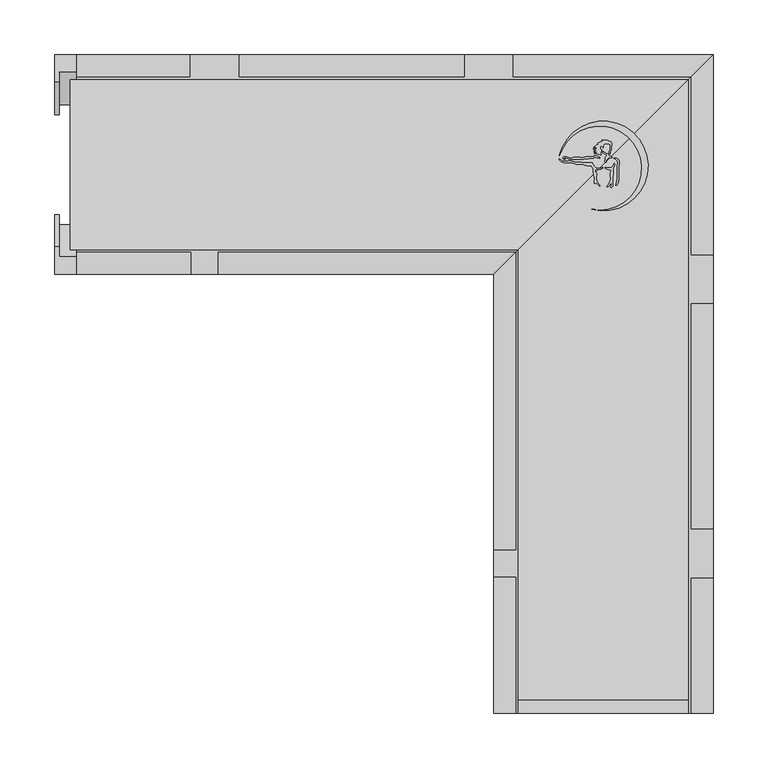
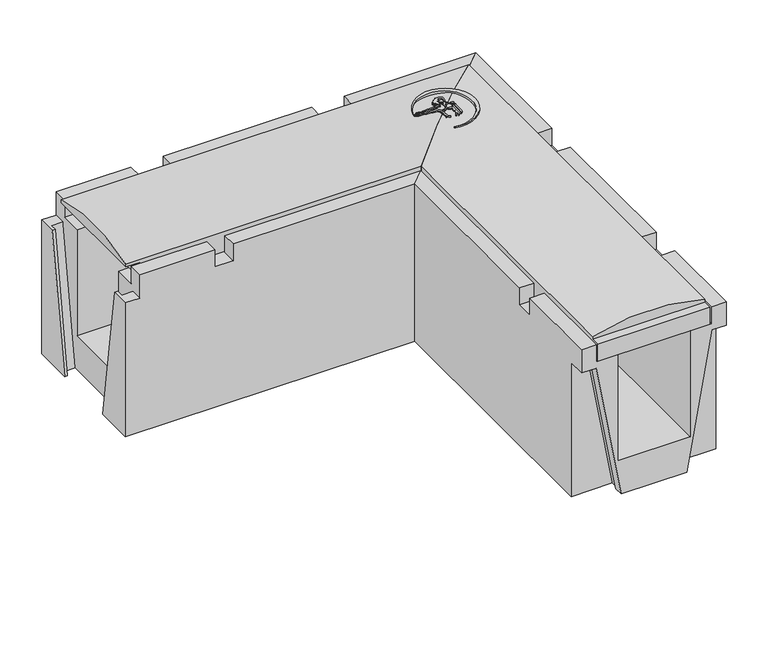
"""IFC4 building model written with IfcOpenShell, lengths in millimetres: cable carrier fitting geometry, Evotray type 1 horizontal bend : Evotray type 1 horizontal bend."""

import ifcopenshell
import ifcopenshell.guid

model = None  # the IFC model being written
_history = None  # IfcOwnerHistory: only IFC2X3 demands one
_inside = {}  # id of a spatial element -> (the spatial element, [elements in it])
_under = {}  # id of a project, library or spatial element -> (it, [spatial elements below it])
_declared = {}  # id of a project -> (the project, [libraries it declares])
_typed = {}  # id of a type object -> (the type object, [elements of that type])
_made_of = {}  # id of a material, layer set ... -> (it, [elements and type objects made of it])


def new_model(schema):
    """Start an empty IFC model of exactly this schema.

    Asked for "IFC4X3", IfcOpenShell would pick the latest addendum, in which some entities
    have other attributes; the version numbers below select the first issue.
    IFC2X3 requires an IfcOwnerHistory on every rooted entity: one is made here for all.
    """
    global model, _history
    if schema == "IFC4X3":
        model = ifcopenshell.file(schema_version=(4, 3, 0, 0))
    else:
        model = ifcopenshell.file(schema=schema)
    _inside.clear()
    _under.clear()
    _declared.clear()
    _typed.clear()
    _made_of.clear()
    _history = None
    if model.schema == "IFC2X3":
        org = make("IfcOrganization", Name="unknown")
        user = make(
            "IfcPersonAndOrganization",
            ThePerson=make("IfcPerson", FamilyName="unknown"),
            TheOrganization=org,
        )
        app = make(
            "IfcApplication",
            ApplicationDeveloper=org,
            Version="unknown",
            ApplicationFullName="unknown",
            ApplicationIdentifier="unknown",
        )
        _history = make(
            "IfcOwnerHistory",
            OwningUser=user,
            OwningApplication=app,
            ChangeAction="ADDED",
            CreationDate=0,
        )
    return model


def make(cls, **values):
    """One entity of the class cls with the attributes given. An attribute that is None is left unset."""
    return model.create_entity(
        cls, **{name: value for name, value in values.items() if value is not None}
    )


def rooted(cls, **values):
    """An entity with a GlobalId (a new one), such as an element, a storey or a relation."""
    return make(cls, GlobalId=ifcopenshell.guid.new(), OwnerHistory=_history, **values)


def si_unit(unit_type, name, prefix=None):
    """IfcSIUnit, for example si_unit("LENGTHUNIT", "METRE", prefix="MILLI")."""
    return make("IfcSIUnit", UnitType=unit_type, Prefix=prefix, Name=name)


def assignment(units):
    """IfcUnitAssignment: the units of a project."""
    return None if units is None else make("IfcUnitAssignment", Units=units)


def point(xyz):
    """IfcCartesianPoint."""
    return None if xyz is None else make("IfcCartesianPoint", Coordinates=xyz)


def direction(xyz):
    """IfcDirection."""
    return None if xyz is None else make("IfcDirection", DirectionRatios=xyz)


def frame(location, z_axis=None, x_axis=None):
    """IfcAxis2Placement3D, a coordinate frame: its origin and axes. An axis left out is left unset."""
    return make(
        "IfcAxis2Placement3D",
        Location=point(location),
        Axis=direction(z_axis),
        RefDirection=direction(x_axis),
    )


def frame_2d(location, x_axis=None):
    """IfcAxis2Placement2D, a coordinate frame in the plane: its origin and x axis."""
    return make(
        "IfcAxis2Placement2D", Location=point(location), RefDirection=direction(x_axis)
    )


def origin():
    """The frame at (0, 0, 0) with its axes left unset."""
    return frame((0.0, 0.0, 0.0))


def place(relative_to, where):
    """IfcLocalPlacement: puts the frame where relative to a parent placement (None: the world)."""
    return make(
        "IfcLocalPlacement", PlacementRelTo=relative_to, RelativePlacement=where
    )


def context(
    kind, dimensions, precision=None, world=None, true_north=None, identifier=None
):
    """IfcGeometricRepresentationContext, for example the 3D "Model" context."""
    return make(
        "IfcGeometricRepresentationContext",
        ContextIdentifier=identifier,
        ContextType=kind,
        CoordinateSpaceDimension=dimensions,
        Precision=precision,
        WorldCoordinateSystem=world,
        TrueNorth=true_north,
    )


def project(units=None, contexts=None):
    """IfcProject with its units and contexts."""
    return rooted(
        "IfcProject",
        Name="project",
        RepresentationContexts=contexts,
        UnitsInContext=assignment(units),
    )


def spatial(cls, under=None, at=None, **own):
    """A site, building, storey or space (cls), placed at a placement, below another one or the project."""
    s = rooted(cls, ObjectPlacement=at, **own)
    if under is not None:
        _under.setdefault(under.id(), (under, []))[1].append(s)
    return s


def polyline(points):
    """IfcPolyline through the points."""
    return make("IfcPolyline", Points=[point(p) for p in points])


def circle_curve(where, radius):
    """IfcCircle in the frame where."""
    return make("IfcCircle", Position=where, Radius=radius)


def ellipse_curve(where, semi_axis1, semi_axis2):
    """IfcEllipse in the frame where."""
    return make(
        "IfcEllipse", Position=where, SemiAxis1=semi_axis1, SemiAxis2=semi_axis2
    )


def trimmed(basis, trim1, trim2, sense, master):
    """IfcTrimmedCurve: the piece of a basis curve between two trims."""
    return make(
        "IfcTrimmedCurve",
        BasisCurve=basis,
        Trim1=trim1,
        Trim2=trim2,
        SenseAgreement=sense,
        MasterRepresentation=master,
    )


def segment(curve, same_sense, transition):
    """IfcCompositeCurveSegment."""
    return make(
        "IfcCompositeCurveSegment",
        Transition=transition,
        SameSense=same_sense,
        ParentCurve=curve,
    )


def composite_curve(segments, self_intersect=None):
    """IfcCompositeCurve: segments joined end to end."""
    return make("IfcCompositeCurve", Segments=segments, SelfIntersect=self_intersect)


def outline(outer, holes=None, kind="AREA"):
    """IfcArbitraryClosedProfileDef: a profile drawn as a closed curve; with holes, ...WithVoids."""
    if holes is None:
        return make("IfcArbitraryClosedProfileDef", ProfileType=kind, OuterCurve=outer)
    return make(
        "IfcArbitraryProfileDefWithVoids",
        ProfileType=kind,
        OuterCurve=outer,
        InnerCurves=holes,
    )


def extrude(swept, where, along, depth):
    """IfcExtrudedAreaSolid: the profile swept, set in the frame where, extruded along a direction by depth."""
    return make(
        "IfcExtrudedAreaSolid",
        SweptArea=swept,
        Position=where,
        ExtrudedDirection=direction(along),
        Depth=depth,
    )


def faces_of(points, faces, orient=None, outer=None):
    """IfcFace entities. A face is a list of loops; a loop is a list of indices into points, from 0.

    orient and outer hold one flag for each loop. By default every Orientation is true, the
    first loop of a face is its IfcFaceOuterBound and the others are IfcFaceBound.
    """
    made = []
    for i, loops in enumerate(faces):
        bounds = []
        for j, loop in enumerate(loops):
            is_outer = j == 0 if outer is None else outer[i][j]
            bounds.append(
                make(
                    "IfcFaceOuterBound" if is_outer else "IfcFaceBound",
                    Bound=make("IfcPolyLoop", Polygon=[points[k] for k in loop]),
                    Orientation=True if orient is None else orient[i][j],
                )
            )
        made.append(make("IfcFace", Bounds=bounds))
    return made


def faceted_brep(points, faces, orient=None, outer=None, voids=None):
    """IfcFacetedBrep: a solid bounded by flat faces; with voids (closed shells), ...WithVoids."""
    shared = [point(p) for p in points]
    hull = make("IfcClosedShell", CfsFaces=faces_of(shared, faces, orient, outer))
    if voids is None:
        return make("IfcFacetedBrep", Outer=hull)
    return make(
        "IfcFacetedBrepWithVoids",
        Outer=hull,
        Voids=[
            make(cls, CfsFaces=faces_of(shared, fs, o, b)) for cls, fs, o, b in voids
        ],
    )


def shape(context_of_items, identifier, shape_type, items):
    """IfcShapeRepresentation: the items that make up one representation, for example the "Body"."""
    return make(
        "IfcShapeRepresentation",
        ContextOfItems=context_of_items,
        RepresentationIdentifier=identifier,
        RepresentationType=shape_type,
        Items=items,
    )


def source(mapping_origin, context_of_items, identifier, shape_type, items):
    """IfcRepresentationMap: a shape defined once, which mapped items show again and again."""
    return make(
        "IfcRepresentationMap",
        MappingOrigin=mapping_origin,
        MappedRepresentation=shape(context_of_items, identifier, shape_type, items),
    )


def transform(
    local_origin,
    x_axis=None,
    y_axis=None,
    z_axis=None,
    scale=None,
    scale2=None,
    scale3=None,
    uniform=True,
):
    """IfcCartesianTransformationOperator3D, or its non-uniform kind. x_axis, y_axis, z_axis: its Axis1, 2, 3."""
    if uniform:
        return make(
            "IfcCartesianTransformationOperator3D",
            Axis1=direction(x_axis),
            Axis2=direction(y_axis),
            LocalOrigin=point(local_origin),
            Scale=scale,
            Axis3=direction(z_axis),
        )
    return make(
        "IfcCartesianTransformationOperator3DnonUniform",
        Axis1=direction(x_axis),
        Axis2=direction(y_axis),
        LocalOrigin=point(local_origin),
        Scale=scale,
        Axis3=direction(z_axis),
        Scale2=scale2,
        Scale3=scale3,
    )


def mapped(mapping_source, mapping_target):
    """IfcMappedItem: shows the shape of a source again, moved by a transform."""
    return make(
        "IfcMappedItem", MappingSource=mapping_source, MappingTarget=mapping_target
    )


def made_of(thing, what):
    """Note that an element or type object is made of a material, layer set ...; save() writes the relation."""
    if what is not None:
        _made_of.setdefault(what.id(), (what, []))[1].append(thing)
    return thing


def element(
    cls,
    number,
    at=None,
    inside=None,
    cuts=None,
    type_object=None,
    material=None,
    context=None,
    identifier="Body",
    shape_type=None,
    held_by="IfcProductDefinitionShape",
    body=None,
    shapes=None,
    **own,
):
    """One element of the class cls, such as IfcWall. Its Tag is "e" and its number.

    at: its placement. inside: the storey or other place that contains it. cuts: it is an
    opening in that element (IfcRelVoidsElement). A single representation is given by context,
    identifier, shape_type and body (its items); several are given by shapes. held_by: the class
    of the entity that holds the representations. save() writes the other relations.
    """
    e = rooted(cls, Tag="e%d" % number, ObjectPlacement=at, **own)
    if body is not None:
        shapes = [shape(context, identifier, shape_type, body)]
    if shapes is not None:
        e.Representation = make(held_by, Representations=shapes)
    if inside is not None:
        _inside.setdefault(inside.id(), (inside, []))[1].append(e)
    if cuts is not None:
        rooted(
            "IfcRelVoidsElement", RelatingBuildingElement=cuts, RelatedOpeningElement=e
        )
    if type_object is not None:
        _typed.setdefault(type_object.id(), (type_object, []))[1].append(e)
    return made_of(e, material)


def aggregate(whole, parts):
    """IfcRelAggregates: a whole, such as a stair, and the parts it consists of."""
    return rooted("IfcRelAggregates", RelatingObject=whole, RelatedObjects=parts)


def save(model, path):
    """Write the relations noted so far, then the file.

    IfcRelAggregates (storeys below a building ...), IfcRelContainedInSpatialStructure (elements
    in a storey), IfcRelDefinesByType, IfcRelAssociatesMaterial and IfcRelDeclares: one each for
    every whole, place, type object, material and project.
    """
    for whole, parts in _under.values():
        aggregate(whole, parts)
    for where, things in _inside.values():
        rooted(
            "IfcRelContainedInSpatialStructure",
            RelatedElements=things,
            RelatingStructure=where,
        )
    for kind, things in _typed.values():
        rooted("IfcRelDefinesByType", RelatedObjects=things, RelatingType=kind)
    for what, things in _made_of.values():
        rooted("IfcRelAssociatesMaterial", RelatedObjects=things, RelatingMaterial=what)
    for by, libraries in _declared.values():
        rooted("IfcRelDeclares", RelatingContext=by, RelatedDefinitions=libraries)
    model.write(path)


def plane_surface(at):
    """IfcPlane: the flat surface through the origin of the frame at, square to its z axis."""
    return make("IfcPlane", Position=at)


def cylinder_surface(at, radius):
    """IfcCylindricalSurface: all points at the distance radius from the z axis of the frame at."""
    return make("IfcCylindricalSurface", Position=at, Radius=radius)


def advanced_brep(points, edges, surfaces, faces):
    """IfcAdvancedBrep: a solid bounded by faces that lie on surfaces and meet in shared edges.

    An edge is (start, end): straight between two places in points (the first is 0);
    or (start, end, curve); or (start, end, curve, False) where it runs against its curve.
    A face is (place in surfaces, loops), or (place, loops, False) where it looks against
    its surface's normal. A loop lists edges by number (the first is 1), with a minus sign
    where the edge is run from its end to its start. The first loop is the outer one.
    """
    corners = [point(p) for p in points]
    vertices = [make("IfcVertexPoint", VertexGeometry=c) for c in corners]
    made = []
    for start, end, *more in edges:
        made.append(
            make(
                "IfcEdgeCurve",
                EdgeStart=vertices[start],
                EdgeEnd=vertices[end],
                EdgeGeometry=more[0] if more else make("IfcPolyline", Points=[corners[start], corners[end]]),
                SameSense=more[1] if len(more) > 1 else True,
            )
        )
    hull = []
    for where, loops, *sense in faces:
        bounds = []
        for j, loop in enumerate(loops):
            ring = [make("IfcOrientedEdge", EdgeElement=made[abs(k) - 1], Orientation=k > 0) for k in loop]
            bounds.append(
                make(
                    "IfcFaceOuterBound" if j == 0 else "IfcFaceBound",
                    Bound=make("IfcEdgeLoop", EdgeList=ring),
                    Orientation=True,
                )
            )
        hull.append(make("IfcAdvancedFace", Bounds=bounds, FaceSurface=surfaces[where], SameSense=sense[0] if sense else True))
    return make("IfcAdvancedBrep", Outer=make("IfcClosedShell", CfsFaces=hull))


def cable_carrier_fitting_a2e915ad(model_context):
    return source(origin(), model_context, "Body", "SolidModel", [
        extrude(outline(composite_curve([segment(polyline([(6.8530353, 7.5339815), (8.2787263, 6.7108584), (7.569795, 6.3015567), (5.0048652, 6.3015567), (2.5453719, 3.8420634), (2.5453719, 2.2583954), (1.4878579, 1.9750354), (1.1564908, 3.2117144), (1.4787122, 4.414261), (1.4787122, 6.6410761), (2.9452528, 8.1076167), (2.5453719, 8.8002309), (1.4787122, 9.4160672), (0.6204403, 9.9115907), (-0.3726833, 10.9047143), (-0.3726833, 12.1547711), (0.4151109, 11.6999379), (1.4787122, 10.6363367), (2.5453719, 10.0205004), (4.8581365, 10.0205004), (5.4900352, 10.6523991), (5.4900352, 12.2608037), (5.8958922, 12.9637687), (6.1354622, 13.8578561), (6.1354622, 17.953291), (5.4900352, 18.598718), (1.4787122, 18.9496633), (0.730548, 18.5177106), (0.2986995, 17.769727), (0.0763061, 16.9397435), (-0.1964103, 15.393092), (-0.752432, 15.9491137), (-1.3180879, 16.5147695), (-2.2786228, 16.5147695), (-2.7530622, 15.6930164), (-2.7530622, 14.868111), (-2.351015, 14.1717449), (-1.6233204, 13.4440503), (-2.0199597, 11.9637721), (-2.3574597, 10.7042051), (-2.0546522, 8.9868987), (-2.8554453, 8.8456973), (-4.5858906, 9.3093687), (-5.8325999, 9.8907188), (-6.5858571, 10.2419684), (-8.1853056, 9.9599424), (-7.7177472, 10.7697774), (-6.0609262, 11.3728109)]), True, "CONTINUOUS"), segment(trimmed(circle_curve(frame_2d((-6.6270538, 11.1008716)), 0.6280537), [point((-6.0609262, 11.3728109))], [point((-6.7826359, 11.7093497))], True, "CARTESIAN"), True, "CONTINUOUS"), segment(polyline([(-6.7826359, 11.7093497), (-8.729651, 11.7093497), (-8.1714729, 12.2675278), (-7.3206931, 12.5771863), (-6.5022536, 12.875074)]), True, "CONTINUOUS"), segment(trimmed(circle_curve(frame_2d((-7.2405785, 12.875074)), 0.7383249), [point((-6.5022536, 12.875074))], [point((-7.2405785, 13.6133989))], True, "CARTESIAN"), True, "CONTINUOUS"), segment(polyline([(-7.2405785, 13.6133989), (-8.9483262, 13.6133989), (-9.3398478, 14.2915342), (-7.5212557, 14.612201), (-6.2249177, 15.0840295), (-6.8456704, 15.7047821), (-8.8088899, 15.7047821), (-8.2563074, 16.2573646), (-7.2264747, 16.8519388), (-6.5517503, 17.5266631), (-5.828933, 17.9439819), (-4.853921, 18.5069053)]), True, "CONTINUOUS"), segment(trimmed(circle_curve(frame_2d((-5.0649064, 18.8723428)), 0.4219708), [point((-4.853921, 18.5069053))], [point((-5.2758918, 19.2377802))], True, "CARTESIAN"), True, "CONTINUOUS"), segment(polyline([(-5.2758918, 19.2377802), (-4.6584952, 19.8551768), (-3.3558252, 20.3293099), (-2.3607686, 20.9038061), (-1.229232, 21.1033266), (-1.5830578, 22.0754549), (3.4169422, 22.0754549), (4.431116, 21.6025379), (5.552971, 21.3019378), (6.5674171, 20.716247), (7.6760935, 19.6075706), (7.6760935, 17.0415553), (7.1871764, 16.1947259), (7.1871764, 13.46269), (6.6981414, 12.4139512), (6.2913396, 11.7093497), (6.2913396, 9.8605854), (5.4900352, 9.3979521), (4.6567567, 9.2510226)]), True, "CONTINUOUS"), segment(trimmed(circle_curve(frame_2d((5.7097082, 8.9688851)), 1.0900956), [point((4.6567567, 9.2510226))], [point((5.4275707, 7.9159336))], True, "CARTESIAN"), True, "CONTINUOUS"), segment(polyline([(5.4275707, 7.9159336), (6.8530353, 7.5339815)]), True, "CONTINUOUS")], self_intersect=False)), frame((0.0, 0.0, 223.75), z_axis=(0.0, 0.0, 1.0), x_axis=(1.0, 0.0, 0.0)), (0.0, 0.0, 1.0), 22.5),
        extrude(outline(polyline([(11.4097445, 4.6789788), (9.4871005, 5.7890178), (10.6763406, 6.1076737), (12.051196, 5.6072673), (14.1773452, 4.3797345), (14.5889946, 2.8434379), (14.5889946, 0.0702487), (14.1706137, -2.3025073), (13.8444766, -11.6418533), (13.8444766, -14.4967502), (13.2848286, -17.6706715), (12.1258045, -18.8296956), (11.2283159, -18.8296956), (11.9031901, -16.975494), (12.2121457, -15.2233198), (12.726603, -12.3056877), (12.726603, -1.066223), (13.1682376, 1.4384114), (12.6257607, 3.4629626), (11.4097445, 4.6789788)])), frame((0.0, 0.0, 223.75), z_axis=(0.0, 0.0, 1.0), x_axis=(1.0, 0.0, 0.0)), (0.0, 0.0, 1.0), 22.5),
        extrude(outline(composite_curve([segment(polyline([(3.9814956, -2.929042), (5.963697, -2.929042), (7.4319613, -2.6701473), (8.7372434, -1.3648653), (9.9173522, 1.1658863), (10.3983042, -0.1555184), (9.7755965, -1.4909195), (9.104989, -2.929042), (9.104989, -8.8872378), (8.6766099, -11.3166965), (8.6766099, -19.7978385), (7.2279512, -21.2464971), (6.655214, -20.6737599), (7.333934, -18.9313898), (7.5920793, -17.4673747)]), True, "CONTINUOUS"), segment(trimmed(circle_curve(frame_2d((7.1774313, -17.4673747)), 0.414648), [point((7.5920793, -17.4673747))], [point((6.7627833, -17.4673747))], True, "CARTESIAN"), True, "CONTINUOUS"), segment(polyline([(6.7627833, -17.4673747), (5.9970945, -18.2330635), (4.730248, -19.7428323), (4.074739, -20.3983414), (3.2824177, -20.0288759), (5.4466376, -16.820288), (5.7525473, -15.0853881), (6.5946052, -13.2795892), (6.8518127, -11.8208929), (6.0633039, -10.4551557), (6.0633039, -7.6886085), (7.3864524, -5.8190518)]), True, "CONTINUOUS"), segment(trimmed(circle_curve(frame_2d((7.0493474, -5.5804712)), 0.4129897), [point((7.3864524, -5.8190518))], [point((6.8107668, -5.2433662))], True, "CARTESIAN"), True, "CONTINUOUS"), segment(polyline([(6.8107668, -5.2433662), (4.8069518, -4.8900395), (3.3630553, -4.2167395), (1.5430546, -3.3680593), (1.5430546, -2.499079), (3.9814956, -2.929042)]), True, "CONTINUOUS")], self_intersect=False)), frame((0.0, 0.0, 223.75), z_axis=(0.0, 0.0, 1.0), x_axis=(1.0, 0.0, 0.0)), (0.0, 0.0, 1.0), 22.5),
        extrude(outline(composite_curve([segment(polyline([(-38.4301003, 3.8801527), (-36.6944265, 3.0707947), (-32.5079526, 3.0707947), (-31.4372315, 3.3576935), (-30.1106939, 3.3576935), (-28.389585, 3.0707947), (-26.383263, 2.5332023), (-25.2300749, 2.2242065), (-19.5381682, 2.2242065), (-16.9216723, 1.7880518), (-15.5941096, 1.4323324), (-9.9798674, 1.4323324)]), True, "CONTINUOUS"), segment(trimmed(circle_curve(frame_2d((-1.1263012, 4.337939)), 9.3181642), [point((-9.9798674, 1.4323324))], [point((-6.6255996, -3.184421))], True, "CARTESIAN"), True, "CONTINUOUS"), segment(polyline([(-6.6255996, -3.184421), (-3.5738148, -3.184421), (-1.5392362, -3.0064185), (-0.4002323, -2.4752922), (-0.6577522, -3.4363696), (-1.6018465, -3.9814427), (-2.5605334, -4.3303762), (-5.7952384, -4.2174178), (-6.983933, -4.6500673), (-7.3929274, -5.5271586), (-7.3178468, -6.3853337), (-6.8389626, -7.2147854), (-6.1183571, -7.9353909), (-6.1183571, -9.6916034), (-6.4836574, -10.6952577), (-6.3393908, -12.3442325), (-5.8342984, -14.2292627), (-5.6861793, -15.9222719), (-3.3148443, -18.6501808), (-3.5235212, -19.8336466), (-6.1183571, -17.2388107), (-7.0811887, -17.4968007), (-8.4843649, -17.2493828), (-8.2088045, -16.4922869), (-8.2088045, -14.2182314), (-8.0332007, -13.2223327), (-8.2088045, -11.2151718), (-8.584467, -10.1830477), (-8.584467, -8.3578648), (-9.0308027, -7.4006948), (-9.0308027, -5.0229453), (-9.2792429, -4.0957537), (-9.7312132, -3.3129181), (-10.179925, -2.5357266), (-10.7943674, -1.9212842), (-11.2282187, -0.9908871), (-14.8291569, -0.8651396), (-17.1733089, -0.4743831), (-19.2059022, 0.0702487), (-22.5475218, 0.4214671), (-24.6271348, 0.4214671), (-25.9693694, 0.7811177), (-27.4929644, 1.1893638), (-28.8362177, 1.8157331), (-29.8306065, 1.8157331), (-32.4820468, 1.8157331), (-33.594291, 1.5177082), (-35.4575729, 1.713547), (-36.9466477, 1.9617671), (-38.6199553, 2.7420433), (-39.5958817, 3.7179696), (-40.2349647, 4.3570527), (-40.2349647, 5.1439324), (-38.4301003, 3.8801527)]), True, "CONTINUOUS")], self_intersect=False)), frame((0.0, 0.0, 223.75), z_axis=(0.0, 0.0, 1.0), x_axis=(1.0, 0.0, 0.0)), (0.0, 0.0, 1.0), 22.5),
        extrude(outline(composite_curve([segment(polyline([(-35.9278677, 5.4241248), (-34.9045534, 4.833314), (-36.6322138, 5.3529849), (-36.9623604, 6.2705486), (-36.1240359, 7.108873), (-33.2512174, 7.108873), (-32.2667804, 6.7111347), (-31.1762916, 6.2705486), (-30.3780981, 5.8097113), (-29.1178679, 5.8097113), (-28.2968429, 6.1051225), (-27.4115906, 6.6162232), (-20.9978856, 6.6162232), (-20.1423111, 6.2705486), (-19.071909, 6.2705486), (-18.1111888, 6.6162232), (-16.9320322, 6.6162232), (-16.2136931, 7.0309564), (-10.8010379, 7.0309564), (-10.0407572, 7.3045113), (-8.7985992, 7.3045113), (-8.2228307, 7.8802798), (-6.2652672, 7.8802798), (-4.9772661, 7.3598936), (-3.9653497, 6.7756634), (-3.1609086, 6.4506481)]), True, "CONTINUOUS"), segment(trimmed(circle_curve(frame_2d((-3.568241, 6.2860752)), 0.4393221), [point((-3.1609086, 6.4506481))], [point((-3.732814, 5.8787428))], False, "CARTESIAN"), True, "CONTINUOUS"), segment(polyline([(-3.732814, 5.8787428), (-4.7485426, 6.2891238), (-6.0602004, 6.2891238), (-7.3306304, 6.5131349), (-8.1426548, 6.2209622), (-9.2856287, 5.8097113), (-12.6298267, 5.8097113), (-13.4209, 5.3529849), (-16.9882203, 5.3529849), (-17.8710826, 4.8432641), (-27.8710826, 4.8432641), (-30.4817467, 4.6148606), (-34.1702744, 6.1051225), (-36.3210419, 6.1051225), (-35.9278677, 5.4241248)]), True, "CONTINUOUS")], self_intersect=False)), frame((0.0, 0.0, 223.75), z_axis=(0.0, 0.0, 1.0), x_axis=(1.0, 0.0, 0.0)), (0.0, 0.0, 1.0), 22.5),
        extrude(outline(composite_curve([segment(trimmed(circle_curve(frame_2d((-3.3476077, -3.2457098)), 38.3616107), [point((-10.7554444, -40.8852785))], [point((-40.059143, 7.8842657))], True, "CARTESIAN"), True, "CONTINUOUS"), segment(trimmed(circle_curve(frame_2d((-0.2182069, -1.3653761)), 40.900563), [point((-40.059143, 7.8842657))], [point((-10.7554444, -40.8852785))], False, "CARTESIAN"), True, "CONTINUOUS")], self_intersect=False)), frame((0.0, 0.0, 223.75), z_axis=(0.0, 0.0, 1.0), x_axis=(1.0, 0.0, 0.0)), (0.0, 0.0, 1.0), 22.5),
        advanced_brep(
        [(-77.5, -500.0, 205.0), (-77.5, -77.5, 205.0), (77.5, 77.5, 205.0), (77.5, -500.0, 205.0), (77.5, -500.0, 230.0), (-77.5, -500.0, 230.0), (77.5, 77.5, 234.0), (77.5, -488.0, 234.0), (77.5, -488.0, 230.0), (-77.5, -77.5, 234.0), (-77.5, -488.0, 230.0), (-77.5, -488.0, 234.0)],
        [
            (0, 1),
            (1, 2),
            (2, 3),
            (3, 0),
            (3, 4),
            (4, 5),
            (5, 0),
            (2, 6),
            (6, 7),
            (7, 8),
            (8, 4),
            (1, 9),
            (9, 6, ellipse_curve(frame((0.0, 0.0, -12.5201058), z_axis=(-0.7071067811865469, 0.7071067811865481, 0.0), x_axis=(-0.707106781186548, -0.7071067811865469, 0.0)), 365.4542723, 258.4151942)),
            (5, 10),
            (10, 11),
            (11, 9),
            (8, 10),
            (7, 11, circle_curve(frame((0.0, -488.0, -12.5201058), z_axis=(0.0, -1.0, 0.0), x_axis=(-1.0, 0.0, 0.0)), 258.4151942)),
        ],
        [
            plane_surface(frame((80.0, -500.0, 205.0), z_axis=(0.0, 0.0, -1.0), x_axis=(-1.0, 0.0, 0.0))),
            plane_surface(frame((-77.5, -500.0, 246.0), z_axis=(0.0, -1.0, 0.0), x_axis=(0.0, 0.0, -1.0))),
            plane_surface(frame((77.5, -500.0, 246.0), z_axis=(1.0, 0.0, 0.0), x_axis=(0.0, 0.0, -1.0))),
            plane_surface(frame((77.5, 77.5, 246.0), z_axis=(-0.7071067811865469, 0.7071067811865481, 0.0), x_axis=(0.0, 0.0, -1.0))),
            plane_surface(frame((-77.5, -77.5, 246.0), z_axis=(-1.0, 0.0, 0.0), x_axis=(0.0, 0.0, -1.0))),
            plane_surface(frame((-77.6, -488.0, 230.0), z_axis=(0.0, 0.0, 1.0), x_axis=(1.0, 0.0, 0.0))),
            plane_surface(frame((77.5, -488.0, 246.0), z_axis=(0.0, -1.0, 0.0), x_axis=(0.0, 0.0, -1.0))),
            cylinder_surface(frame((0.0, 0.0, -12.5201058), z_axis=(0.0, -1.0, 0.0), x_axis=(-1.0, 0.0, 0.0)), 258.4151942),
        ],
        [
            (0, [[1, 2, 3, 4]]),
            (1, [[-4, 5, 6, 7]]),
            (2, [[-3, 8, 9, 10, 11, -5]]),
            (3, [[-2, 12, 13, -8]]),
            (4, [[-1, -7, 14, 15, 16, -12]]),
            (5, [[17, -14, -6, -11]]),
            (6, [[-17, -10, 18, -15]]),
            (7, [[-9, -13, -16, -18]]),
        ],
    ),
        advanced_brep(
        [(77.5, 77.5, 205.0), (-77.5, -77.5, 205.0), (-466.0, -77.5, 205.0), (-466.0, 77.5, 205.0), (-77.5, -77.5, 230.0), (-77.5, -77.5, 234.0), (-486.0, -77.5, 234.0), (-486.0, -77.5, 230.0), (-466.0, -77.5, 230.0), (77.5, 77.5, 230.0), (77.5, 77.5, 234.0), (-466.0, 77.5, 230.0), (-486.0, 77.5, 230.0), (-486.0, 77.5, 234.0)],
        [
            (0, 1),
            (1, 2),
            (2, 3),
            (3, 0),
            (1, 4),
            (4, 5),
            (5, 6),
            (6, 7),
            (7, 8),
            (8, 2),
            (0, 9),
            (9, 10),
            (10, 5, ellipse_curve(frame((0.0, 0.0, -12.5201058), z_axis=(0.7071067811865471, -0.7071067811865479, 0.0), x_axis=(0.7071067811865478, 0.7071067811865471, 0.0)), 365.4542723, 258.4151942)),
            (3, 11),
            (11, 12),
            (12, 13),
            (13, 10),
            (12, 7),
            (6, 13, circle_curve(frame((-486.0, 0.0, -12.5201058), z_axis=(-1.0, 0.0, 0.0), x_axis=(0.0, -1.0, 0.0)), 258.4151942)),
            (11, 8),
        ],
        [
            plane_surface(frame((-77.5, -77.5, 205.0), z_axis=(0.0, 0.0, -1.0), x_axis=(-1.0, 0.0, 0.0))),
            plane_surface(frame((-486.0, -77.5, 246.0), z_axis=(0.0, -1.0, 0.0), x_axis=(0.0, 0.0, -1.0))),
            plane_surface(frame((-77.5, -77.5, 246.0), z_axis=(0.7071067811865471, -0.7071067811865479, 0.0), x_axis=(0.0, 0.0, -1.0))),
            plane_surface(frame((77.5, 77.5, 246.0), z_axis=(0.0, 1.0, 0.0), x_axis=(0.0, 0.0, -1.0))),
            plane_surface(frame((-486.0, 77.5, 246.0), z_axis=(-1.0, 0.0, 0.0), x_axis=(0.0, 0.0, -1.0))),
            plane_surface(frame((-486.0, 77.5, 230.0), z_axis=(0.0, 0.0, -1.0), x_axis=(-1.0, 0.0, 0.0))),
            plane_surface(frame((-466.0, -77.5, 230.0), z_axis=(-1.0, 0.0, 0.0), x_axis=(0.0, 0.0, -1.0))),
            cylinder_surface(frame((-486.0, 0.0, -12.5201058), z_axis=(1.0, 0.0, 0.0), x_axis=(0.0, -1.0, 0.0)), 258.4151942),
        ],
        [
            (0, [[1, 2, 3, 4]]),
            (1, [[5, 6, 7, 8, 9, 10, -2]]),
            (2, [[-1, 11, 12, 13, -6, -5]]),
            (3, [[-11, -4, 14, 15, 16, 17, -12]]),
            (4, [[18, -8, 19, -16]]),
            (5, [[20, -9, -18, -15]]),
            (6, [[-20, -14, -3, -10]]),
            (7, [[-7, -13, -17, -19]]),
        ],
    ),
        faceted_brep([(-80.0, -80.0, 230.0), (-100.0, -100.0, 230.0), (-100.0, -351.0, 230.0), (-80.0, -351.0, 230.0), (100.0, 100.0, 230.0), (80.0, 80.0, 230.0), (80.0, -82.0, 230.0), (100.0, -82.0, 230.0), (80.0, -500.0, 230.0), (100.0, -500.0, 230.0), (100.0, -377.0, 230.0), (80.0, -377.0, 230.0), (-100.0, -500.0, 230.0), (-80.0, -500.0, 230.0), (-80.0, -376.0, 230.0), (-100.0, -376.0, 230.0), (100.0, -332.0, 230.0), (100.0, -127.0, 230.0), (80.0, -127.0, 230.0), (80.0, -332.0, 230.0), (-100.0, -100.0, 0.0), (100.0, 100.0, 0.0), (100.0, -475.0, 0.0), (43.0, -475.0, 0.0), (43.0, -487.0, 0.0), (45.4, -487.0, 0.0), (45.4, -500.0, 0.0), (-45.4, -500.0, 0.0), (-45.4, -487.0, 0.0), (-43.0, -487.0, 0.0), (-43.0, -475.0, 0.0), (-100.0, -475.0, 0.0), (100.0, -82.0, 205.0), (100.0, -127.0, 205.0), (100.0, -332.0, 205.0), (100.0, -377.0, 205.0), (100.0, -500.0, 196.0), (100.0, -475.0, 196.0), (-80.0, -80.0, 205.0), (-50.0, -50.0, 205.0), (-50.0, -50.0, 50.0), (50.0, 50.0, 50.0), (50.0, 50.0, 205.0), (80.0, 80.0, 205.0), (-100.0, -475.0, 196.0), (-100.0, -500.0, 196.0), (-100.0, -376.0, 205.0), (-100.0, -351.0, 205.0), (-80.0, -500.0, 196.0), (80.0, -500.0, 196.0), (80.0, -500.0, 205.0), (50.0, -500.0, 205.0), (50.0, -500.0, 50.0), (-50.0, -500.0, 50.0), (-50.0, -500.0, 205.0), (-80.0, -500.0, 205.0), (-80.0, -487.0, 196.0), (-77.6, -475.0, 196.0), (-77.6, -487.0, 196.0), (80.0, -487.0, 196.0), (77.6, -487.0, 196.0), (77.6, -475.0, 196.0), (-80.0, -351.0, 205.0), (-80.0, -376.0, 205.0), (80.0, -377.0, 205.0), (80.0, -332.0, 205.0), (80.0, -127.0, 205.0), (80.0, -82.0, 205.0)], [[[0, 1, 2, 3]], [[4, 5, 6, 7]], [[8, 9, 10, 11]], [[12, 13, 14, 15]], [[16, 17, 18, 19]], [[20, 21, 22, 23, 24, 25, 26, 27, 28, 29, 30, 31]], [[21, 4, 7, 32, 33, 17, 16, 34, 35, 10, 9, 36, 37, 22]], [[21, 20, 1, 0, 38, 39, 40, 41, 42, 43, 5, 4]], [[1, 20, 31, 44, 45, 12, 15, 46, 47, 2]], [[12, 45, 48, 27, 26, 49, 36, 9, 8, 50, 51, 52, 53, 54, 55, 13]], [[56, 48, 45, 44, 57, 58]], [[48, 56, 28, 27]], [[49, 59, 60, 61, 37, 36]], [[59, 49, 26, 25]], [[58, 29, 28, 56]], [[58, 57, 30, 29]], [[57, 44, 31, 30]], [[24, 60, 59, 25]], [[61, 60, 24, 23]], [[37, 61, 23, 22]], [[39, 38, 62, 47, 46, 63, 55, 54]], [[43, 42, 51, 50, 64, 35, 34, 65, 66, 33, 32, 67]], [[19, 18, 66, 65]], [[5, 43, 67, 6]], [[50, 8, 11, 64]], [[38, 0, 3, 62]], [[13, 55, 63, 14]], [[52, 41, 40, 53]], [[41, 52, 51, 42]], [[53, 40, 39, 54]], [[47, 62, 3, 2]], [[63, 46, 15, 14]], [[67, 32, 7, 6]], [[33, 66, 18, 17]], [[65, 34, 16, 19]], [[35, 64, 11, 10]]]),
        faceted_brep([(-100.0, -100.0, 230.0), (-80.0, -80.0, 230.0), (-351.0, -80.0, 230.0), (-351.0, -100.0, 230.0), (80.0, 80.0, 230.0), (100.0, 100.0, 230.0), (-82.0, 100.0, 230.0), (-82.0, 80.0, 230.0), (-127.0, 100.0, 230.0), (-332.0, 100.0, 230.0), (-332.0, 80.0, 230.0), (-127.0, 80.0, 230.0), (-376.0, -100.0, 230.0), (-376.0, -80.0, 230.0), (-480.0, -80.0, 230.0), (-480.0, -100.0, 230.0), (-377.0, 80.0, 230.0), (-377.0, 100.0, 230.0), (-480.0, 100.0, 230.0), (-480.0, 80.0, 230.0), (-500.0, 100.0, 0.0), (100.0, 100.0, 0.0), (-100.0, -100.0, 0.0), (-500.0, -100.0, 0.0), (-500.0, -45.5, 0.0), (-496.0, -45.5, 0.0), (-496.0, -54.6, 0.0), (-480.0, -54.6, 0.0), (-480.0, 54.6, 0.0), (-496.0, 54.6, 0.0), (-496.0, 45.4, 0.0), (-500.0, 45.4, 0.0), (-500.0, 100.0, 196.0), (-500.0, 74.8852174, 196.0), (-500.0, -100.0, 196.0), (-500.0, -74.9, 196.0), (-351.0, -100.0, 205.0), (-376.0, -100.0, 205.0), (-480.0, -100.0, 196.0), (80.0, 80.0, 205.0), (50.0, 50.0, 205.0), (50.0, 50.0, 50.0), (-50.0, -50.0, 50.0), (-50.0, -50.0, 205.0), (-80.0, -80.0, 205.0), (-480.0, 100.0, 196.0), (-377.0, 100.0, 205.0), (-332.0, 100.0, 205.0), (-127.0, 100.0, 205.0), (-82.0, 100.0, 205.0), (-82.0, 80.0, 205.0), (-127.0, 80.0, 205.0), (-332.0, 80.0, 205.0), (-377.0, 80.0, 205.0), (-480.0, 80.0, 205.0), (-480.0, 77.5, 205.0), (-480.0, 50.0, 205.0), (-466.0, 50.0, 205.0), (-466.0, -50.0, 205.0), (-480.0, -50.0, 205.0), (-480.0, -77.5, 205.0), (-480.0, -80.0, 205.0), (-376.0, -80.0, 205.0), (-351.0, -80.0, 205.0), (-480.0, 50.0, 50.0), (-480.0, -50.0, 50.0), (-480.0, -84.0852174, 196.0), (-496.0, -84.0852174, 196.0), (-496.0, -74.9, 196.0), (-496.0, 74.8852174, 196.0), (-496.0, 84.0, 196.0), (-480.0, 84.0, 196.0)], [[[0, 1, 2, 3]], [[4, 5, 6, 7]], [[8, 9, 10, 11]], [[12, 13, 14, 15]], [[16, 17, 18, 19]], [[20, 21, 22, 23, 24, 25, 26, 27, 28, 29, 30, 31]], [[32, 20, 31, 33]], [[23, 34, 35, 24]], [[23, 22, 0, 3, 36, 37, 12, 15, 38, 34]], [[22, 21, 5, 4, 39, 40, 41, 42, 43, 44, 1, 0]], [[21, 20, 32, 45, 18, 17, 46, 47, 9, 8, 48, 49, 6, 5]], [[40, 39, 50, 49, 48, 51, 52, 47, 46, 53, 54, 55, 56, 57]], [[44, 43, 58, 59, 60, 61, 62, 37, 36, 63]], [[1, 44, 63, 2]], [[13, 62, 61, 14]], [[11, 10, 52, 51]], [[39, 4, 7, 50]], [[53, 16, 19, 54]], [[42, 41, 64, 65]], [[41, 40, 57, 56, 64]], [[43, 42, 65, 59, 58]], [[37, 62, 13, 12]], [[63, 36, 3, 2]], [[53, 46, 17, 16]], [[47, 52, 10, 9]], [[51, 48, 8, 11]], [[49, 50, 7, 6]], [[34, 38, 66, 67, 68, 35]], [[45, 32, 33, 69, 70, 71]], [[38, 15, 14, 61, 60, 59, 65, 64, 56, 55, 54, 19, 18, 45, 71, 28, 27, 66]], [[31, 30, 69, 33]], [[25, 24, 35, 68]], [[28, 71, 70, 29]], [[29, 70, 69, 30]], [[67, 26, 25, 68]], [[66, 27, 26, 67]]]),
    ])


if __name__ == "__main__":
    model = new_model("IFC4")
    model_context = context("Model", 3, world=origin())
    ifc_project = project(units=[si_unit("LENGTHUNIT", "METRE", prefix="MILLI")], contexts=[model_context])
    site = spatial("IfcSite", under=ifc_project)
    building = spatial("IfcBuilding", under=site)
    placement = place(None, origin())
    cable_carrier_fitting_shape = cable_carrier_fitting_a2e915ad(model_context)
    element("IfcCableCarrierFitting", 1, ObjectType="Evotray type 1 horizontal bend : Evotray type 1 horizontal bend", at=placement, inside=building, context=model_context, shape_type="MappedRepresentation", body=[
        mapped(cable_carrier_fitting_shape, transform((0.0, 0.0, 0.0), x_axis=(1.0, 0.0, 0.0), y_axis=(0.0, 1.0, 0.0), z_axis=(0.0, 0.0, 1.0))),
    ])
    save(model, "model.ifc")
